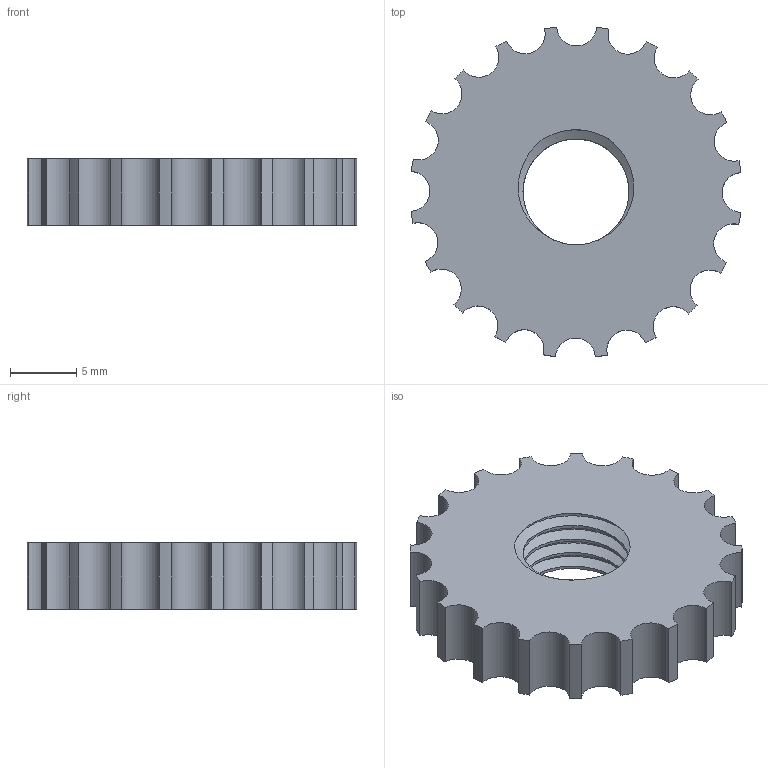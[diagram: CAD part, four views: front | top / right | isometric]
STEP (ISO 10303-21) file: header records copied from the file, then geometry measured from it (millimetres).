
FILE_DESCRIPTION(/* description */ (''),/* implementation_level */ '2;1');
FILE_NAME(/* name */ 'D:/Dokumenty/3D/Luke''s 3D/Projects/Spool winder v3/STEP/Shaft nut.step',/* time_stamp */ '2021-11-14T12:12:48+01:00',/* author */ (''),/* organization */ (''),/* preprocessor_version */ 'ST-DEVELOPER v18.1',/* originating_system */ 'Autodesk Translation Framework v10.10.0.1391',/* authorisation */ '');
FILE_SCHEMA (('AUTOMOTIVE_DESIGN { 1 0 10303 214 3 1 1 }'));
Length unit declared in the file: millimetre
Products named in the file (3): Spool winder 2; Center; Shaft nut
Assembly tree (2 placements, depth 3):
  Spool winder 2
    Center
      Shaft nut
Bounding box: 24.83 x 24.83 x 5 mm (x, y, z)
Volume: 1813.6 mm3; surface area: 1495 mm2
Topology: 1 solids, 1 shells, 54 faces, 156 edges, 104 vertices
Faces by surface type: cylinder 50, bspline 2, plane 2
Full cylindrical faces by diameter (mm): 7.979 x3, 9.37 x2
Entity records: 2992 total; most frequent: CARTESIAN_POINT 1457, DIRECTION 330, ORIENTED_EDGE 312, EDGE_CURVE 156, AXIS2_PLACEMENT_3D 141, VERTEX_POINT 104, CIRCLE 84, EDGE_LOOP 56
